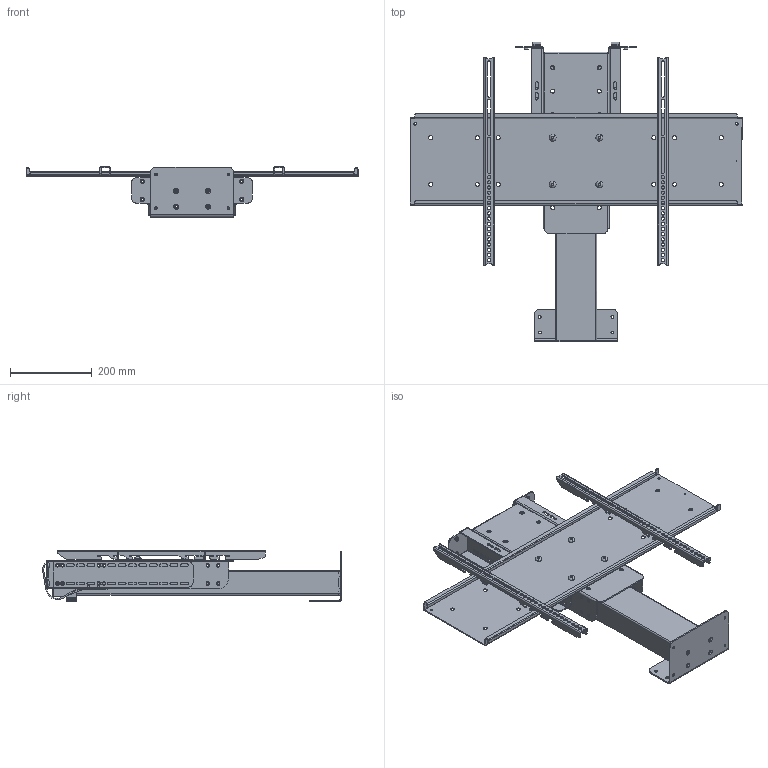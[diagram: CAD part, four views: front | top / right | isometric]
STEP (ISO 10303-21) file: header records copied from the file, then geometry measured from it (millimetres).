
FILE_DESCRIPTION (( 'STEP AP214' ), '1' );
FILE_NAME ('Nexus-21-L-50-HTG-3D-CAD-Retracted.STEP', '2017-12-05T22:33:13', ( '' ), ( '' ), 'SwSTEP 2.0', 'SolidWorks 2015', '' );
FILE_SCHEMA (( 'AUTOMOTIVE_DESIGN' ));
Length unit declared in the file: inch
Products named in the file (1): Nexus-21-L-50-HTG-3D-CAD-Retracted
Bounding box: 812.8 x 733.07 x 124.51 mm (x, y, z)
Surface area: 1523966 mm2 (no closed solid volume)
Topology: 0 solids, 81 shells, 1246 faces, 5416 edges, 4069 vertices
Faces by surface type: cylinder 626, plane 543, cone 48, bspline 17, torus 12
Entity records: 75807 total; most frequent: CARTESIAN_POINT 16094, DIRECTION 8799, ORIENTED_EDGE 8224, EDGE_CURVE 5412, VERTEX_POINT 4069, AXIS2_PLACEMENT_3D 3131, LINE 2537, VECTOR 2537
